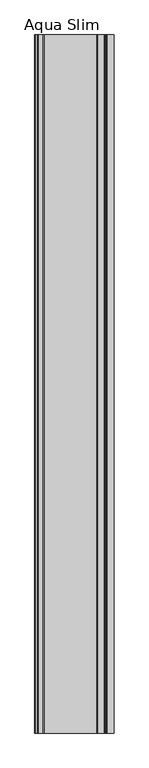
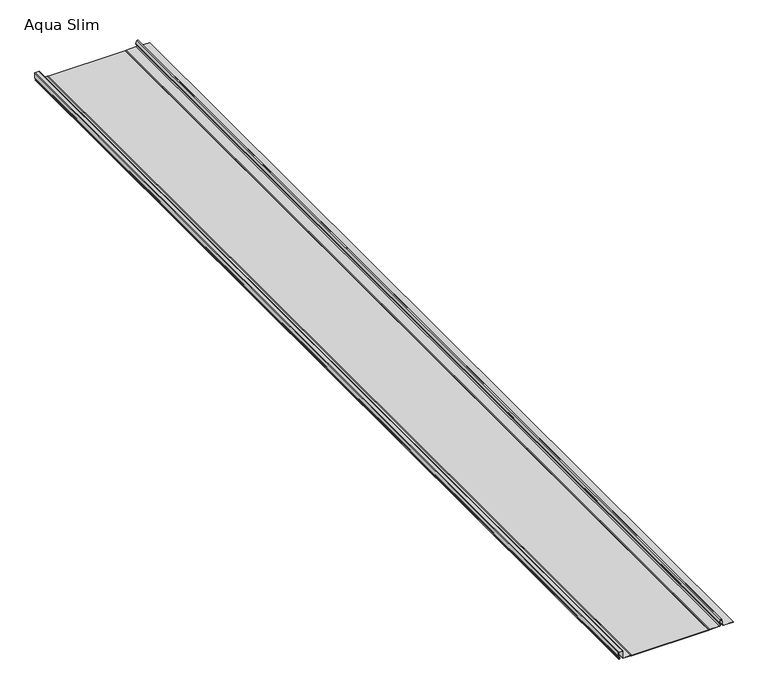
"""IFC4 building model written with IfcOpenShell, lengths in millimetres: proxy geometry, AQUAPLAST - Panel Dachowy i Elewacyjny Aqua Slim : Aqua Slim."""

import ifcopenshell
import ifcopenshell.guid

model = None  # the IFC model being written
_history = None  # IfcOwnerHistory: only IFC2X3 demands one
_inside = {}  # id of a spatial element -> (the spatial element, [elements in it])
_under = {}  # id of a project, library or spatial element -> (it, [spatial elements below it])
_declared = {}  # id of a project -> (the project, [libraries it declares])
_typed = {}  # id of a type object -> (the type object, [elements of that type])
_made_of = {}  # id of a material, layer set ... -> (it, [elements and type objects made of it])


def new_model(schema):
    """Start an empty IFC model of exactly this schema.

    Asked for "IFC4X3", IfcOpenShell would pick the latest addendum, in which some entities
    have other attributes; the version numbers below select the first issue.
    IFC2X3 requires an IfcOwnerHistory on every rooted entity: one is made here for all.
    """
    global model, _history
    if schema == "IFC4X3":
        model = ifcopenshell.file(schema_version=(4, 3, 0, 0))
    else:
        model = ifcopenshell.file(schema=schema)
    _inside.clear()
    _under.clear()
    _declared.clear()
    _typed.clear()
    _made_of.clear()
    _history = None
    if model.schema == "IFC2X3":
        org = make("IfcOrganization", Name="unknown")
        user = make(
            "IfcPersonAndOrganization",
            ThePerson=make("IfcPerson", FamilyName="unknown"),
            TheOrganization=org,
        )
        app = make(
            "IfcApplication",
            ApplicationDeveloper=org,
            Version="unknown",
            ApplicationFullName="unknown",
            ApplicationIdentifier="unknown",
        )
        _history = make(
            "IfcOwnerHistory",
            OwningUser=user,
            OwningApplication=app,
            ChangeAction="ADDED",
            CreationDate=0,
        )
    return model


def make(cls, **values):
    """One entity of the class cls with the attributes given. An attribute that is None is left unset."""
    return model.create_entity(
        cls, **{name: value for name, value in values.items() if value is not None}
    )


def rooted(cls, **values):
    """An entity with a GlobalId (a new one), such as an element, a storey or a relation."""
    return make(cls, GlobalId=ifcopenshell.guid.new(), OwnerHistory=_history, **values)


def si_unit(unit_type, name, prefix=None):
    """IfcSIUnit, for example si_unit("LENGTHUNIT", "METRE", prefix="MILLI")."""
    return make("IfcSIUnit", UnitType=unit_type, Prefix=prefix, Name=name)


def assignment(units):
    """IfcUnitAssignment: the units of a project."""
    return None if units is None else make("IfcUnitAssignment", Units=units)


def point(xyz):
    """IfcCartesianPoint."""
    return None if xyz is None else make("IfcCartesianPoint", Coordinates=xyz)


def direction(xyz):
    """IfcDirection."""
    return None if xyz is None else make("IfcDirection", DirectionRatios=xyz)


def frame(location, z_axis=None, x_axis=None):
    """IfcAxis2Placement3D, a coordinate frame: its origin and axes. An axis left out is left unset."""
    return make(
        "IfcAxis2Placement3D",
        Location=point(location),
        Axis=direction(z_axis),
        RefDirection=direction(x_axis),
    )


def frame_2d(location, x_axis=None):
    """IfcAxis2Placement2D, a coordinate frame in the plane: its origin and x axis."""
    return make(
        "IfcAxis2Placement2D", Location=point(location), RefDirection=direction(x_axis)
    )


def origin():
    """The frame at (0, 0, 0) with its axes left unset."""
    return frame((0.0, 0.0, 0.0))


def origin_with_axes():
    """The frame at (0, 0, 0) with the z axis (0, 0, 1) and the x axis (1, 0, 0) written out."""
    return frame((0.0, 0.0, 0.0), z_axis=(0.0, 0.0, 1.0), x_axis=(1.0, 0.0, 0.0))


def place(relative_to, where):
    """IfcLocalPlacement: puts the frame where relative to a parent placement (None: the world)."""
    return make(
        "IfcLocalPlacement", PlacementRelTo=relative_to, RelativePlacement=where
    )


def context(
    kind, dimensions, precision=None, world=None, true_north=None, identifier=None
):
    """IfcGeometricRepresentationContext, for example the 3D "Model" context."""
    return make(
        "IfcGeometricRepresentationContext",
        ContextIdentifier=identifier,
        ContextType=kind,
        CoordinateSpaceDimension=dimensions,
        Precision=precision,
        WorldCoordinateSystem=world,
        TrueNorth=true_north,
    )


def project(units=None, contexts=None):
    """IfcProject with its units and contexts."""
    return rooted(
        "IfcProject",
        Name="project",
        RepresentationContexts=contexts,
        UnitsInContext=assignment(units),
    )


def spatial(cls, under=None, at=None, **own):
    """A site, building, storey or space (cls), placed at a placement, below another one or the project."""
    s = rooted(cls, ObjectPlacement=at, **own)
    if under is not None:
        _under.setdefault(under.id(), (under, []))[1].append(s)
    return s


def polyline(points):
    """IfcPolyline through the points."""
    return make("IfcPolyline", Points=[point(p) for p in points])


def circle_curve(where, radius):
    """IfcCircle in the frame where."""
    return make("IfcCircle", Position=where, Radius=radius)


def trimmed(basis, trim1, trim2, sense, master):
    """IfcTrimmedCurve: the piece of a basis curve between two trims."""
    return make(
        "IfcTrimmedCurve",
        BasisCurve=basis,
        Trim1=trim1,
        Trim2=trim2,
        SenseAgreement=sense,
        MasterRepresentation=master,
    )


def segment(curve, same_sense, transition):
    """IfcCompositeCurveSegment."""
    return make(
        "IfcCompositeCurveSegment",
        Transition=transition,
        SameSense=same_sense,
        ParentCurve=curve,
    )


def composite_curve(segments, self_intersect=None):
    """IfcCompositeCurve: segments joined end to end."""
    return make("IfcCompositeCurve", Segments=segments, SelfIntersect=self_intersect)


def outline(outer, holes=None, kind="AREA"):
    """IfcArbitraryClosedProfileDef: a profile drawn as a closed curve; with holes, ...WithVoids."""
    if holes is None:
        return make("IfcArbitraryClosedProfileDef", ProfileType=kind, OuterCurve=outer)
    return make(
        "IfcArbitraryProfileDefWithVoids",
        ProfileType=kind,
        OuterCurve=outer,
        InnerCurves=holes,
    )


def extrude(swept, where, along, depth):
    """IfcExtrudedAreaSolid: the profile swept, set in the frame where, extruded along a direction by depth."""
    return make(
        "IfcExtrudedAreaSolid",
        SweptArea=swept,
        Position=where,
        ExtrudedDirection=direction(along),
        Depth=depth,
    )


def shape(context_of_items, identifier, shape_type, items):
    """IfcShapeRepresentation: the items that make up one representation, for example the "Body"."""
    return make(
        "IfcShapeRepresentation",
        ContextOfItems=context_of_items,
        RepresentationIdentifier=identifier,
        RepresentationType=shape_type,
        Items=items,
    )


def source(mapping_origin, context_of_items, identifier, shape_type, items):
    """IfcRepresentationMap: a shape defined once, which mapped items show again and again."""
    return make(
        "IfcRepresentationMap",
        MappingOrigin=mapping_origin,
        MappedRepresentation=shape(context_of_items, identifier, shape_type, items),
    )


def transform(
    local_origin,
    x_axis=None,
    y_axis=None,
    z_axis=None,
    scale=None,
    scale2=None,
    scale3=None,
    uniform=True,
):
    """IfcCartesianTransformationOperator3D, or its non-uniform kind. x_axis, y_axis, z_axis: its Axis1, 2, 3."""
    if uniform:
        return make(
            "IfcCartesianTransformationOperator3D",
            Axis1=direction(x_axis),
            Axis2=direction(y_axis),
            LocalOrigin=point(local_origin),
            Scale=scale,
            Axis3=direction(z_axis),
        )
    return make(
        "IfcCartesianTransformationOperator3DnonUniform",
        Axis1=direction(x_axis),
        Axis2=direction(y_axis),
        LocalOrigin=point(local_origin),
        Scale=scale,
        Axis3=direction(z_axis),
        Scale2=scale2,
        Scale3=scale3,
    )


def mapped(mapping_source, mapping_target):
    """IfcMappedItem: shows the shape of a source again, moved by a transform."""
    return make(
        "IfcMappedItem", MappingSource=mapping_source, MappingTarget=mapping_target
    )


def made_of(thing, what):
    """Note that an element or type object is made of a material, layer set ...; save() writes the relation."""
    if what is not None:
        _made_of.setdefault(what.id(), (what, []))[1].append(thing)
    return thing


def element(
    cls,
    number,
    at=None,
    inside=None,
    cuts=None,
    type_object=None,
    material=None,
    context=None,
    identifier="Body",
    shape_type=None,
    held_by="IfcProductDefinitionShape",
    body=None,
    shapes=None,
    **own,
):
    """One element of the class cls, such as IfcWall. Its Tag is "e" and its number.

    at: its placement. inside: the storey or other place that contains it. cuts: it is an
    opening in that element (IfcRelVoidsElement). A single representation is given by context,
    identifier, shape_type and body (its items); several are given by shapes. held_by: the class
    of the entity that holds the representations. save() writes the other relations.
    """
    e = rooted(cls, Tag="e%d" % number, ObjectPlacement=at, **own)
    if body is not None:
        shapes = [shape(context, identifier, shape_type, body)]
    if shapes is not None:
        e.Representation = make(held_by, Representations=shapes)
    if inside is not None:
        _inside.setdefault(inside.id(), (inside, []))[1].append(e)
    if cuts is not None:
        rooted(
            "IfcRelVoidsElement", RelatingBuildingElement=cuts, RelatedOpeningElement=e
        )
    if type_object is not None:
        _typed.setdefault(type_object.id(), (type_object, []))[1].append(e)
    return made_of(e, material)


def aggregate(whole, parts):
    """IfcRelAggregates: a whole, such as a stair, and the parts it consists of."""
    return rooted("IfcRelAggregates", RelatingObject=whole, RelatedObjects=parts)


def save(model, path):
    """Write the relations noted so far, then the file.

    IfcRelAggregates (storeys below a building ...), IfcRelContainedInSpatialStructure (elements
    in a storey), IfcRelDefinesByType, IfcRelAssociatesMaterial and IfcRelDeclares: one each for
    every whole, place, type object, material and project.
    """
    for whole, parts in _under.values():
        aggregate(whole, parts)
    for where, things in _inside.values():
        rooted(
            "IfcRelContainedInSpatialStructure",
            RelatedElements=things,
            RelatingStructure=where,
        )
    for kind, things in _typed.values():
        rooted("IfcRelDefinesByType", RelatedObjects=things, RelatingType=kind)
    for what, things in _made_of.values():
        rooted("IfcRelAssociatesMaterial", RelatedObjects=things, RelatingMaterial=what)
    for by, libraries in _declared.values():
        rooted("IfcRelDeclares", RelatingContext=by, RelatedDefinitions=libraries)
    model.write(path)


def aqua_slim_27351003(model_context):
    return source(origin(), model_context, "Body", "SweptSolid", [
        extrude(outline(composite_curve([segment(polyline([(0.8, 168.4), (0.8, 138.958412)]), True, "CONTINUOUS"), segment(trimmed(circle_curve(frame_2d((1.4640676, 138.958412)), 0.6640676), [point((0.8, 138.958412))], [point((1.3501315, 138.3041916))], True, "CARTESIAN"), True, "CONTINUOUS"), segment(polyline([(1.3501315, 138.3041916), (18.7653554, 135.2712349)]), True, "CONTINUOUS"), segment(trimmed(circle_curve(frame_2d((18.1818617, 132.6281389)), 2.7067363), [point((18.7653554, 135.2712349))], [point((19.5352298, 130.2840366))], False, "CARTESIAN"), True, "CONTINUOUS"), segment(polyline([(19.5352298, 130.2840366), (12.1941629, 127.3237764)]), True, "CONTINUOUS"), segment(trimmed(circle_curve(frame_2d((11.2676679, 129.6213657)), 2.4773594), [point((12.1941629, 127.3237764))], [point((9.0024093, 128.6184133))], False, "CARTESIAN"), True, "CONTINUOUS"), segment(trimmed(circle_curve(frame_2d((5.4667311, 127.0529775)), 3.8667311), [point((9.0024093, 128.6184133))], [point((1.6, 127.0529775))], True, "CARTESIAN"), True, "CONTINUOUS"), segment(polyline([(1.6, 127.0529775), (1.6, 99.2000503), (0.8, 95.7000503), (0.0, 95.7000503), (0.8, 99.2000503), (0.8, 126.8938021)]), True, "CONTINUOUS"), segment(trimmed(circle_curve(frame_2d((5.5014361, 126.8938021)), 4.7014361), [point((0.8, 126.8938021))], [point((9.7513874, 128.9041293))], False, "CARTESIAN"), True, "CONTINUOUS"), segment(trimmed(circle_curve(frame_2d((11.2676679, 129.6213657)), 1.6773594), [point((9.7513874, 128.9041293))], [point((11.8934079, 128.0650932))], True, "CARTESIAN"), True, "CONTINUOUS"), segment(polyline([(11.8934079, 128.0650932), (19.1352298, 130.9768569)]), True, "CONTINUOUS"), segment(trimmed(circle_curve(frame_2d((18.1818617, 132.6281389)), 1.9067363), [point((19.1352298, 130.9768569))], [point((18.4803326, 134.5113697))], True, "CARTESIAN"), True, "CONTINUOUS"), segment(polyline([(18.4803326, 134.5113697), (0.6241817, 137.3413691)]), True, "CONTINUOUS"), segment(trimmed(circle_curve(frame_2d((0.7400208, 138.0722673)), 0.7400208), [point((0.6241817, 137.3413691))], [point((0.0, 138.0722673))], False, "CARTESIAN"), True, "CONTINUOUS"), segment(polyline([(0.0, 138.0722673), (0.0, 168.4), (0.8, 168.4)]), True, "CONTINUOUS")], self_intersect=False)), frame((0.0, -2997.0, 0.0), z_axis=(0.0, 1.0, 0.0), x_axis=(0.0, 0.0, 1.0)), (0.0, 0.0, 1.0), 2997.0),
        extrude(outline(composite_curve([segment(polyline([(1.6, -135.0), (1.6, -158.1)]), True, "CONTINUOUS"), segment(trimmed(circle_curve(frame_2d((2.1, -158.1)), 0.5), [point((1.6, -158.1))], [point((2.1, -158.6))], True, "CARTESIAN"), True, "CONTINUOUS"), segment(polyline([(2.1, -158.6), (24.5, -158.6)]), True, "CONTINUOUS"), segment(trimmed(circle_curve(frame_2d((24.5, -159.1)), 0.5), [point((24.5, -158.6))], [point((25.0, -159.1))], False, "CARTESIAN"), True, "CONTINUOUS"), segment(polyline([(25.0, -159.1), (25.0, -171.1)]), True, "CONTINUOUS"), segment(trimmed(circle_curve(frame_2d((24.5, -171.1)), 0.5), [point((25.0, -171.1))], [point((24.5, -171.6))], False, "CARTESIAN"), True, "CONTINUOUS"), segment(polyline([(24.5, -171.6), (8.8039223, -171.6)]), True, "CONTINUOUS"), segment(trimmed(circle_curve(frame_2d((8.8039223, -170.9250457)), 0.6749543), [point((8.8039223, -171.6))], [point((8.1289934, -170.9191923))], False, "CARTESIAN"), True, "CONTINUOUS"), segment(trimmed(circle_curve(frame_2d((5.3847863, -170.9191923)), 2.7442071), [point((8.1289934, -170.9191923))], [point((2.6405793, -170.9191923))], True, "CARTESIAN"), True, "CONTINUOUS"), segment(polyline([(2.6405793, -170.9191923), (1.8403383, -170.9191923)]), True, "CONTINUOUS"), segment(trimmed(circle_curve(frame_2d((5.4137846, -170.9191923)), 3.5734462), [point((1.8403383, -170.9191923))], [point((8.9478642, -170.3902321))], False, "CARTESIAN"), True, "CONTINUOUS"), segment(trimmed(circle_curve(frame_2d((9.7850119, -169.9539484)), 0.9440125), [point((8.9478642, -170.3902321))], [point((9.7850119, -170.897961))], True, "CARTESIAN"), True, "CONTINUOUS"), segment(polyline([(9.7850119, -170.897961), (23.6993591, -170.897961)]), True, "CONTINUOUS"), segment(trimmed(circle_curve(frame_2d((23.6993591, -170.3966773)), 0.5012837), [point((23.6993591, -170.897961))], [point((24.2006428, -170.3966773))], True, "CARTESIAN"), True, "CONTINUOUS"), segment(polyline([(24.2006428, -170.3966773), (24.2006428, -159.9001579)]), True, "CONTINUOUS"), segment(trimmed(circle_curve(frame_2d((23.7003195, -159.9001579)), 0.5003233), [point((24.2006428, -159.9001579))], [point((23.7003195, -159.3998346))], True, "CARTESIAN"), True, "CONTINUOUS"), segment(polyline([(23.7003195, -159.3998346), (1.2999699, -159.3998346)]), True, "CONTINUOUS"), segment(trimmed(circle_curve(frame_2d((1.2999699, -158.8999248)), 0.4999098), [point((1.2999699, -159.3998346))], [point((0.8000601, -158.8999248))], False, "CARTESIAN"), True, "CONTINUOUS"), segment(polyline([(0.8000601, -158.8999248), (0.8000601, -135.0), (0.0, -131.5), (0.8, -131.5), (1.6, -135.0)]), True, "CONTINUOUS")], self_intersect=False)), frame((0.0, -2997.0, 0.0), z_axis=(0.0, 1.0, 0.0), x_axis=(0.0, 0.0, 1.0)), (0.0, 0.0, 1.0), 2997.0),
        extrude(outline(polyline([(-131.5, -2997.0), (-131.5, 0.0), (95.7000503, 0.0), (95.7000503, -2997.0), (-131.5, -2997.0)])), origin_with_axes(), (0.0, 0.0, 1.0), 0.8),
    ])


if __name__ == "__main__":
    model = new_model("IFC4")
    model_context = context("Model", 3, world=origin())
    ifc_project = project(units=[si_unit("LENGTHUNIT", "METRE", prefix="MILLI")], contexts=[model_context])
    site = spatial("IfcSite", under=ifc_project)
    building = spatial("IfcBuilding", under=site)
    placement = place(None, origin())
    aqua_slim_shape = aqua_slim_27351003(model_context)
    element("IfcBuildingElementProxy", 1, Name="AQUAPLAST - Panel Dachowy i Elewacyjny Aqua Slim : Aqua Slim", ObjectType="AQUAPLAST - Panel Dachowy i Elewacyjny Aqua Slim : Aqua Slim", at=placement, inside=building, context=model_context, shape_type="MappedRepresentation", body=[
        mapped(aqua_slim_shape, transform((0.0, 0.0, 0.0), x_axis=(1.0, 0.0, 0.0), y_axis=(0.0, 1.0, 0.0), z_axis=(0.0, 0.0, 1.0))),
    ])
    save(model, "model.ifc")
